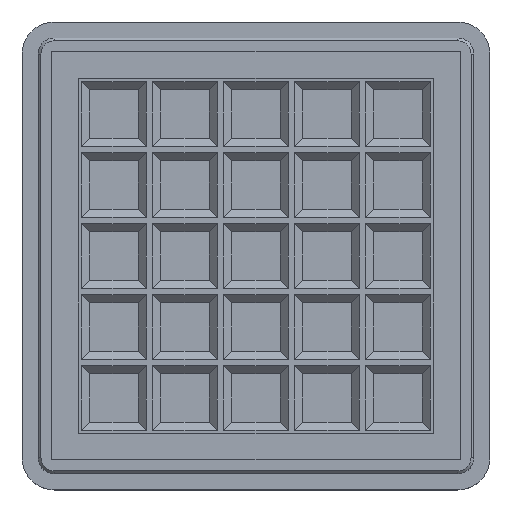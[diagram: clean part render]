
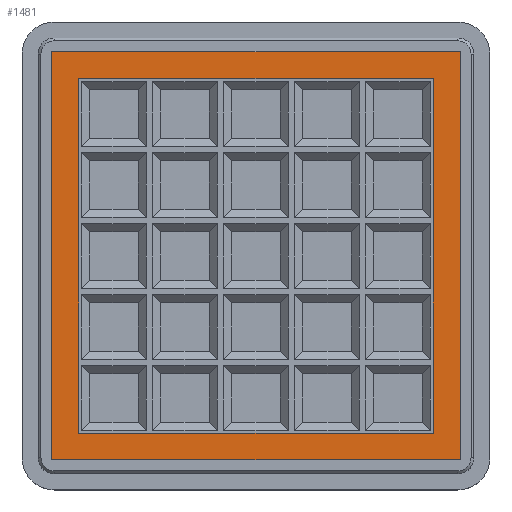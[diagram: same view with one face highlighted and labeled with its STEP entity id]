
A CAD part, top view. The second image highlights one B-rep face of the part: STEP entity #1481.
In plain terms, the highlighted planar face has unit normal (0, 0, 1).
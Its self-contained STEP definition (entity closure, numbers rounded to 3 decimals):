
#1390 = VERTEX_POINT('',#1391);
#1391 = CARTESIAN_POINT('',(25.3,-25.3,12.));
#1397 = EDGE_CURVE('',#1398,#1390,#1400,.T.);
#1398 = VERTEX_POINT('',#1399);
#1399 = CARTESIAN_POINT('',(-25.3,-25.3,12.));
#1400 = LINE('',#1401,#1402);
#1401 = CARTESIAN_POINT('',(-25.3,-25.3,12.));
#1402 = VECTOR('',#1403,1.);
#1403 = DIRECTION('',(1.,0.,-0.));
#1421 = EDGE_CURVE('',#1390,#1422,#1424,.T.);
#1422 = VERTEX_POINT('',#1423);
#1423 = CARTESIAN_POINT('',(25.3,25.3,12.));
#1424 = LINE('',#1425,#1426);
#1425 = CARTESIAN_POINT('',(25.3,-25.3,12.));
#1426 = VECTOR('',#1427,1.);
#1427 = DIRECTION('',(-0.,1.,0.));
#1445 = EDGE_CURVE('',#1446,#1422,#1448,.T.);
#1446 = VERTEX_POINT('',#1447);
#1447 = CARTESIAN_POINT('',(-25.3,25.3,12.));
#1448 = LINE('',#1449,#1450);
#1449 = CARTESIAN_POINT('',(-25.3,25.3,12.));
#1450 = VECTOR('',#1451,1.);
#1451 = DIRECTION('',(1.,0.,-0.));
#1469 = EDGE_CURVE('',#1398,#1446,#1470,.T.);
#1470 = LINE('',#1471,#1472);
#1471 = CARTESIAN_POINT('',(-25.3,-25.3,12.));
#1472 = VECTOR('',#1473,1.);
#1473 = DIRECTION('',(-0.,1.,0.));
#1481 = ADVANCED_FACE('',(#1482,#1488),#1522,.T.);
#1482 = FACE_BOUND('',#1483,.T.);
#1483 = EDGE_LOOP('',(#1484,#1485,#1486,#1487));
#1484 = ORIENTED_EDGE('',*,*,#1469,.F.);
#1485 = ORIENTED_EDGE('',*,*,#1397,.T.);
#1486 = ORIENTED_EDGE('',*,*,#1421,.T.);
#1487 = ORIENTED_EDGE('',*,*,#1445,.F.);
#1488 = FACE_BOUND('',#1489,.T.);
#1489 = EDGE_LOOP('',(#1490,#1500,#1508,#1516));
#1490 = ORIENTED_EDGE('',*,*,#1491,.F.);
#1491 = EDGE_CURVE('',#1492,#1494,#1496,.T.);
#1492 = VERTEX_POINT('',#1493);
#1493 = CARTESIAN_POINT('',(-22.,-22.,12.));
#1494 = VERTEX_POINT('',#1495);
#1495 = CARTESIAN_POINT('',(22.,-22.,12.));
#1496 = LINE('',#1497,#1498);
#1497 = CARTESIAN_POINT('',(-23.65,-22.,12.));
#1498 = VECTOR('',#1499,1.);
#1499 = DIRECTION('',(1.,0.,-0.));
#1500 = ORIENTED_EDGE('',*,*,#1501,.F.);
#1501 = EDGE_CURVE('',#1502,#1492,#1504,.T.);
#1502 = VERTEX_POINT('',#1503);
#1503 = CARTESIAN_POINT('',(-22.,22.,12.));
#1504 = LINE('',#1505,#1506);
#1505 = CARTESIAN_POINT('',(-22.,-23.65,12.));
#1506 = VECTOR('',#1507,1.);
#1507 = DIRECTION('',(0.,-1.,0.));
#1508 = ORIENTED_EDGE('',*,*,#1509,.T.);
#1509 = EDGE_CURVE('',#1502,#1510,#1512,.T.);
#1510 = VERTEX_POINT('',#1511);
#1511 = CARTESIAN_POINT('',(22.,22.,12.));
#1512 = LINE('',#1513,#1514);
#1513 = CARTESIAN_POINT('',(-23.65,22.,12.));
#1514 = VECTOR('',#1515,1.);
#1515 = DIRECTION('',(1.,0.,-0.));
#1516 = ORIENTED_EDGE('',*,*,#1517,.T.);
#1517 = EDGE_CURVE('',#1510,#1494,#1518,.T.);
#1518 = LINE('',#1519,#1520);
#1519 = CARTESIAN_POINT('',(22.,-23.65,12.));
#1520 = VECTOR('',#1521,1.);
#1521 = DIRECTION('',(0.,-1.,0.));
#1522 = PLANE('',#1523);
#1523 = AXIS2_PLACEMENT_3D('',#1524,#1525,#1526);
#1524 = CARTESIAN_POINT('',(-25.3,-25.3,12.));
#1525 = DIRECTION('',(0.,0.,1.));
#1526 = DIRECTION('',(1.,0.,-0.));
